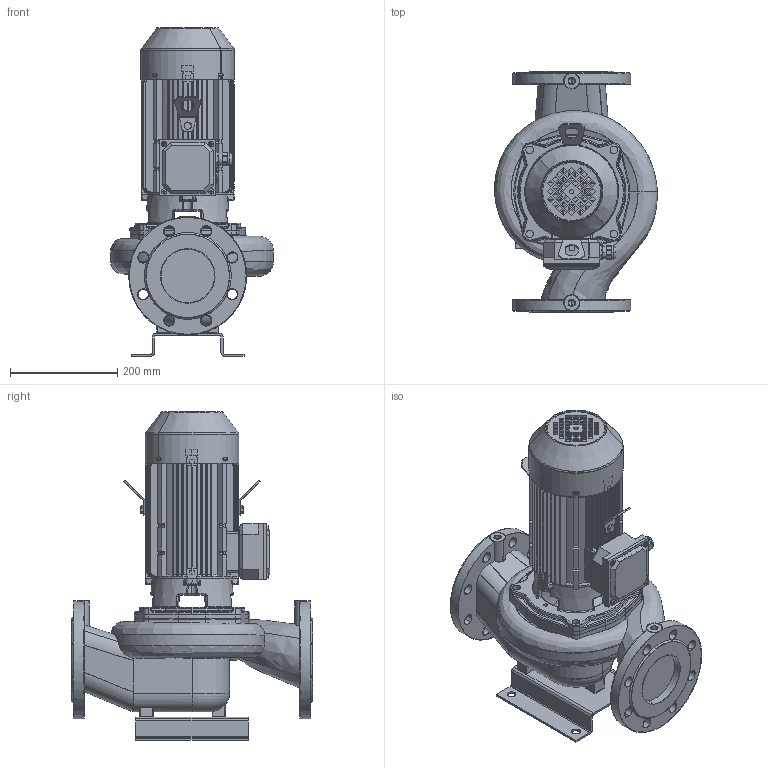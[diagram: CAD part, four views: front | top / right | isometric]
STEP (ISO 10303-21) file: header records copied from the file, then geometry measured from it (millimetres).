
FILE_DESCRIPTION(('STEP AP214'),'1');
FILE_NAME('export.stp','2018-05-28T10:12:12',(' '),(' '),'Spatial InterOp 3D',' ',' ');
FILE_SCHEMA(('AUTOMOTIVE_DESIGN { 1 0 10303 214 1 1 1 1 }'));
Length unit declared in the file: millimetre
Products named in the file (24): 160024; 160004_Valu; V_MKP90-2_F19; 480039; 480038___; 160141; 160137; 160138; 160139; 160140; Koura_Ale_M5; Plug_Blind_M20; Sealing_Plug_M20; DIN_7985-M5X8; DIN_7985-M5X12; 480037; 480036___; 160135; 160134; DIN_EN_24017_-_M8_16-Stainless_S; W_AL11024150KP90; V_TLL65AB80A1102; V_PPAL1102; V_JALKA35973
Assembly tree (28 placements, depth 4):
  W_AL11024150KP90
    V_MKP90-2_F19
      160024
        160004_Valu
      480039
        480038___
      160141
        160137
        160138
        160139
        160140
        Koura_Ale_M5
        Plug_Blind_M20
        Sealing_Plug_M20
        DIN_7985-M5X8
        DIN_7985-M5X12  x4
      480037
        480036___
      160135
      160134  x2
      DIN_EN_24017_-_M8_16-Stainless_S  x2
    V_TLL65AB80A1102
    V_PPAL1102
    V_JALKA35973
Bounding box: 304.06 x 450 x 612.99 mm (x, y, z)
Volume: 2916266.7 mm3; surface area: 2227617.9 mm2
Topology: 23 solids, 23 shells, 2855 faces, 7641 edges, 4803 vertices
Faces by surface type: plane 1147, cylinder 936, torus 282, bspline 262, cone 183, sphere 37, offset 8
Entity records: 113415 total; most frequent: CARTESIAN_POINT 39740, ORIENTED_EDGE 14542, DIRECTION 13634, EDGE_CURVE 7271, AXIS2_PLACEMENT_3D 5188, VERTEX_POINT 4625, LINE 3258, VECTOR 3258
